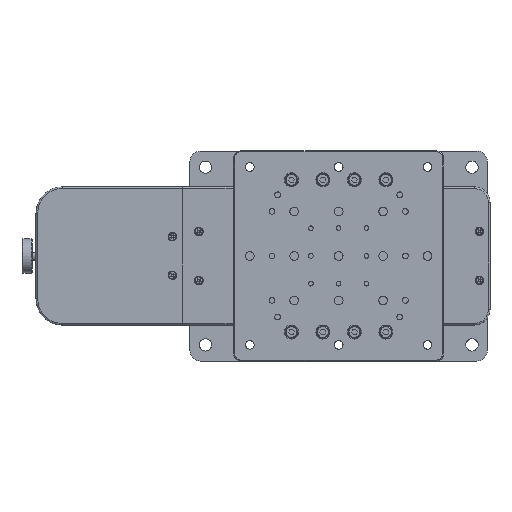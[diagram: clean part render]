
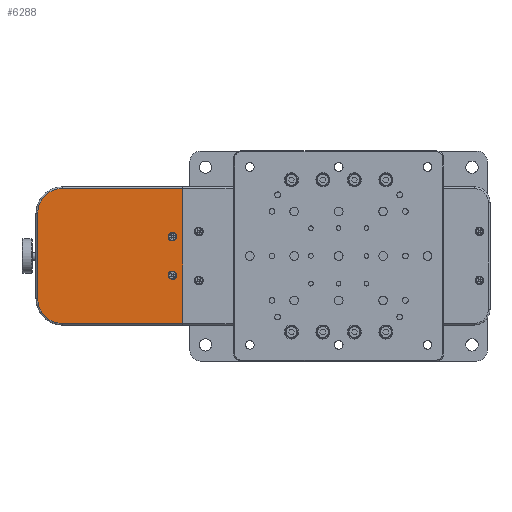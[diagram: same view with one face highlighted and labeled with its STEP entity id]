
A CAD part, top view. The second image highlights one B-rep face of the part: STEP entity #6288.
In plain terms, the highlighted planar face has unit normal (0, 0, 1).
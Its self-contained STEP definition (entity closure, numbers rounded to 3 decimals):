
#6081=CARTESIAN_POINT('',(-89.,-38.5,31.));
#6082=VERTEX_POINT('',#6081);
#6090=CARTESIAN_POINT('',(-158.,-38.5,31.));
#6091=VERTEX_POINT('',#6090);
#6092=CARTESIAN_POINT('',(-89.,-38.5,31.));
#6093=DIRECTION('',(-1.0,0.0,0.0));
#6094=VECTOR('',#6093,69.);
#6095=LINE('',#6092,#6094);
#6096=EDGE_CURVE('',#6082,#6091,#6095,.T.);
#6121=CARTESIAN_POINT('',(-172.,-24.5,31.));
#6122=VERTEX_POINT('',#6121);
#6140=CARTESIAN_POINT('',(-158.,-24.5,31.));
#6141=DIRECTION('',(0.,0.,-1.0));
#6142=DIRECTION('',(-0.707,-0.707,0.));
#6143=AXIS2_PLACEMENT_3D('',#6140,#6141,#6142);
#6144=CIRCLE('',#6143,14.);
#6145=EDGE_CURVE('',#6091,#6122,#6144,.T.);
#6155=CARTESIAN_POINT('',(-172.,24.5,31.));
#6156=VERTEX_POINT('',#6155);
#6173=CARTESIAN_POINT('',(-172.,-24.5,31.));
#6174=DIRECTION('',(0.0,1.0,0.0));
#6175=VECTOR('',#6174,49.);
#6176=LINE('',#6173,#6175);
#6177=EDGE_CURVE('',#6122,#6156,#6176,.T.);
#6187=CARTESIAN_POINT('',(-158.,38.5,31.));
#6188=VERTEX_POINT('',#6187);
#6206=CARTESIAN_POINT('',(-158.,24.5,31.));
#6207=DIRECTION('',(0.,0.,-1.));
#6208=DIRECTION('',(-0.707,0.707,0.));
#6209=AXIS2_PLACEMENT_3D('',#6206,#6207,#6208);
#6210=CIRCLE('',#6209,14.);
#6211=EDGE_CURVE('',#6156,#6188,#6210,.T.);
#6221=CARTESIAN_POINT('',(-89.,38.5,31.));
#6222=VERTEX_POINT('',#6221);
#6239=CARTESIAN_POINT('',(-158.,38.5,31.));
#6240=DIRECTION('',(1.0,0.0,0.0));
#6241=VECTOR('',#6240,69.0);
#6242=LINE('',#6239,#6241);
#6243=EDGE_CURVE('',#6188,#6222,#6242,.T.);
#6248=CARTESIAN_POINT('',(-124.,0.,31.));
#6249=DIRECTION('',(0.0,0.0,1.0));
#6250=DIRECTION('',(1.0,0.0,0.0));
#6251=AXIS2_PLACEMENT_3D('',#6248,#6249,#6250);
#6252=PLANE('',#6251);
#6253=ORIENTED_EDGE('',*,*,#6243,.F.);
#6254=ORIENTED_EDGE('',*,*,#6211,.F.);
#6255=ORIENTED_EDGE('',*,*,#6177,.F.);
#6256=ORIENTED_EDGE('',*,*,#6145,.F.);
#6257=ORIENTED_EDGE('',*,*,#6096,.F.);
#6258=CARTESIAN_POINT('',(-89.,-38.5,31.));
#6259=DIRECTION('',(0.0,1.0,0.0));
#6260=VECTOR('',#6259,77.);
#6261=LINE('',#6258,#6260);
#6262=EDGE_CURVE('',#6082,#6222,#6261,.T.);
#6263=ORIENTED_EDGE('',*,*,#6262,.T.);
#6264=EDGE_LOOP('',(#6253,#6254,#6255,#6256,#6257,#6263));
#6265=FACE_OUTER_BOUND('',#6264,.T.);
#6266=CARTESIAN_POINT('',(-92.6,11.,31.));
#6267=VERTEX_POINT('',#6266);
#6268=CARTESIAN_POINT('',(-95.,11.,31.));
#6269=DIRECTION('',(0.0,0.0,-1.0));
#6270=DIRECTION('',(1.0,0.0,0.0));
#6271=AXIS2_PLACEMENT_3D('',#6268,#6269,#6270);
#6272=CIRCLE('',#6271,2.4);
#6273=EDGE_CURVE('',#6267,#6267,#6272,.T.);
#6274=ORIENTED_EDGE('',*,*,#6273,.T.);
#6275=EDGE_LOOP('',(#6274));
#6276=FACE_BOUND('',#6275,.T.);
#6277=CARTESIAN_POINT('',(-92.6,-11.,31.));
#6278=VERTEX_POINT('',#6277);
#6279=CARTESIAN_POINT('',(-95.,-11.,31.));
#6280=DIRECTION('',(0.0,0.0,-1.0));
#6281=DIRECTION('',(1.0,0.0,0.0));
#6282=AXIS2_PLACEMENT_3D('',#6279,#6280,#6281);
#6283=CIRCLE('',#6282,2.4);
#6284=EDGE_CURVE('',#6278,#6278,#6283,.T.);
#6285=ORIENTED_EDGE('',*,*,#6284,.T.);
#6286=EDGE_LOOP('',(#6285));
#6287=FACE_BOUND('',#6286,.T.);
#6288=ADVANCED_FACE('',(#6265,#6276,#6287),#6252,.T.);
